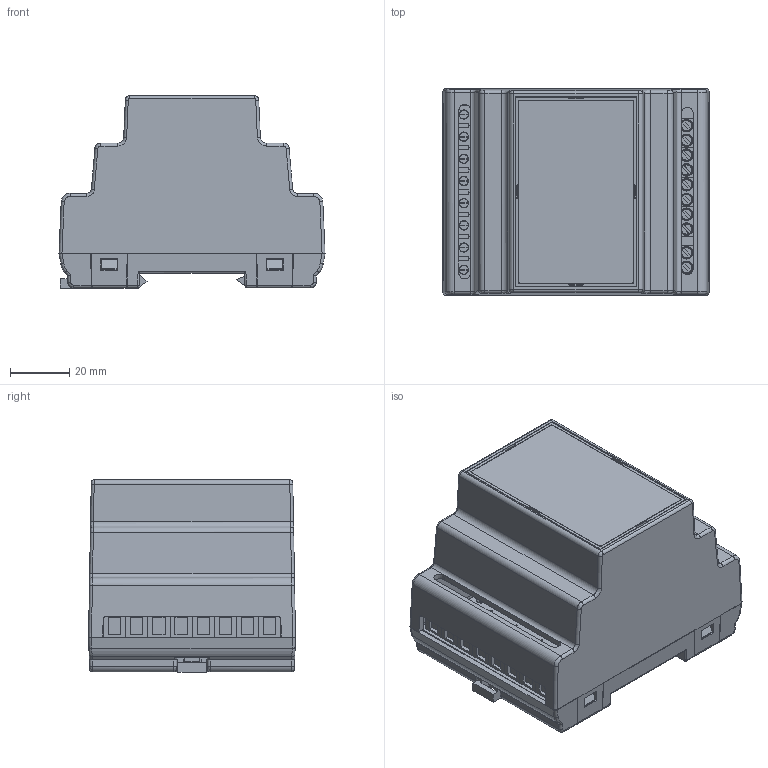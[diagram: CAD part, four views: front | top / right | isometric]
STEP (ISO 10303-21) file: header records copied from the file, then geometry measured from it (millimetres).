
FILE_DESCRIPTION(/* description */ ('','CAx-IF Rec.Pracs.---Representation and Presentation of Product Manufacturing Information (PMI)---3.8---2014-02-18'),/* implementation_level */ '2;1');
FILE_NAME(/* name */ 'C:\Users\user\Desktop\OP-1015 (PS-08).stp',/* time_stamp */ '2024-08-29T15:15:26+02:00',/* author */ ('user'),/* organization */ (''),/* preprocessor_version */ 'ST-DEVELOPER v16.13',/* originating_system */ 'Autodesk Inventor 2018',/* authorisation */ '');
FILE_SCHEMA (('AP242_MANAGED_MODEL_BASED_3D_ENGINEERING_MIM_LF { 1 0 10303 442 1 1 4 }'));
Products named in the file (11): OP-1015; OP-1015_A; OP-1015-B_1; OP-1015_D; OP-267-D; OP-1015_naklejka; S_023.05.000.00058/...061; ST-1000_2_4_N; ST-1000_2_4_N v1; ŁĄCZKA 7,5MM; DG128-5.0-02P-14-00AH
Assembly tree (24 placements, depth 3):
  OP-1015
    OP-1015_A
    OP-1015-B_1
    OP-1015_D
    OP-267-D
    OP-1015_naklejka
    S_023.05.000.00058/...061  x4
    ST-1000_2_4_N
      ST-1000_2_4_N v1
      DG128-5.0-02P-14-00AH  x5
      ŁĄCZKA 7,5MM  x8
Bounding box: 89.99 x 70 x 65.06 mm (x, y, z)
Volume: 76078.8 mm3; surface area: 91929 mm2
Topology: 63 solids, 63 shells, 4358 faces, 11619 edges, 7634 vertices
Faces by surface type: plane 2582, bspline 1183, cylinder 415, cone 114, torus 58, sphere 6
Full cylindrical faces by diameter (mm): 0.5 x92, 0.8 x1, 0.813 x4, 0.9 x7, 1 x24, 1.016 x10, 1.2 x8, 1.3 x16, 1.5 x8, 1.6 x10, 2.9 x4, 2.926 x8, 3 x4, 3.186 x8, 4 x10, 4.1 x20
Entity records: 88906 total; most frequent: CARTESIAN_POINT 28353, ORIENTED_EDGE 12586, DIRECTION 10401, EDGE_CURVE 6293, VERTEX_POINT 4300, LINE 4179, VECTOR 4179, EDGE_LOOP 3221
